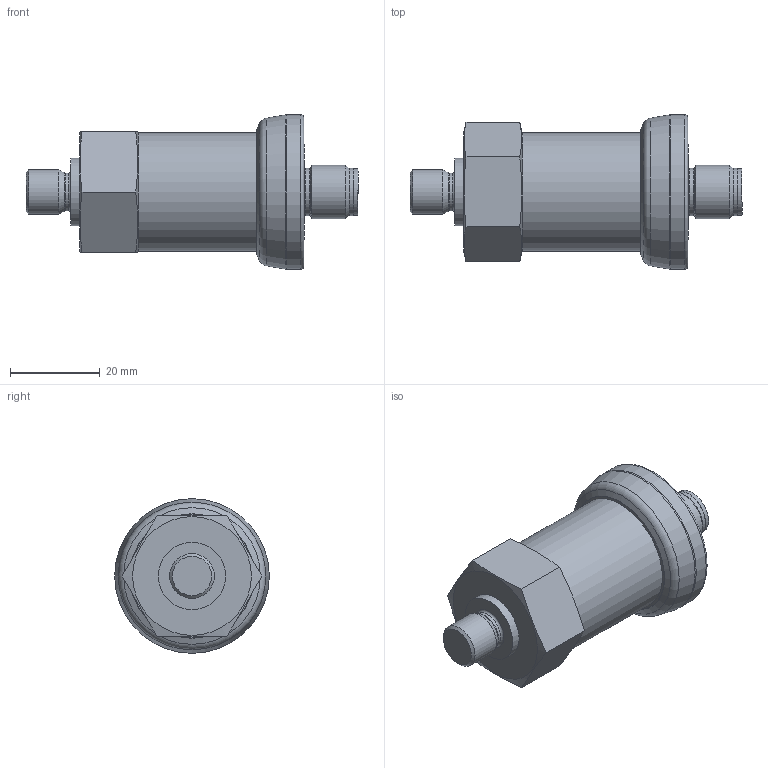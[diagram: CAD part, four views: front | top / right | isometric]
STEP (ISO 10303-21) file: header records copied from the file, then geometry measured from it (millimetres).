
FILE_DESCRIPTION(/* description */ (''),/* implementation_level */ '2;1');
FILE_NAME(/* name */ 'W:\Obchodni usek\MARKETING\3D Modely\DMP 343\DMP343-100-xxxx-x-x-M10-700-x-000.stp',/* time_stamp */ '2021-02-17T12:52:05+01:00',/* author */ ('Borýsek'),/* organization */ (''),/* preprocessor_version */ 'ST-DEVELOPER v16.5',/* originating_system */ 'Autodesk Inventor 2017',/* authorisation */ '');
FILE_SCHEMA (('AUTOMOTIVE_DESIGN { 1 0 10303 214 3 1 1 }'));
Length unit declared in the file: millimetre
Products named in the file (1): DMP343-100-xxxx-x-x-M10-700-x-000
Bounding box: 74.1 x 34.5 x 34.5 mm (x, y, z)
Volume: 34462.5 mm3; surface area: 7172.6 mm2
Topology: 1 solids, 1 shells, 40 faces, 80 edges, 48 vertices
Faces by surface type: plane 14, cylinder 10, cone 8, torus 8
Full cylindrical faces by diameter (mm): 8.4 x1, 9.974 x1, 10.4 x1, 10.6 x2, 12 x1, 15 x1, 21.4 x1, 26.5 x1, 34.5 x1
Entity records: 931 total; most frequent: CARTESIAN_POINT 159, DIRECTION 152, ORIENTED_EDGE 100, AXIS2_PLACEMENT_3D 73, EDGE_LOOP 72, EDGE_CURVE 50, VERTEX_POINT 44, FACE_OUTER_BOUND 40
